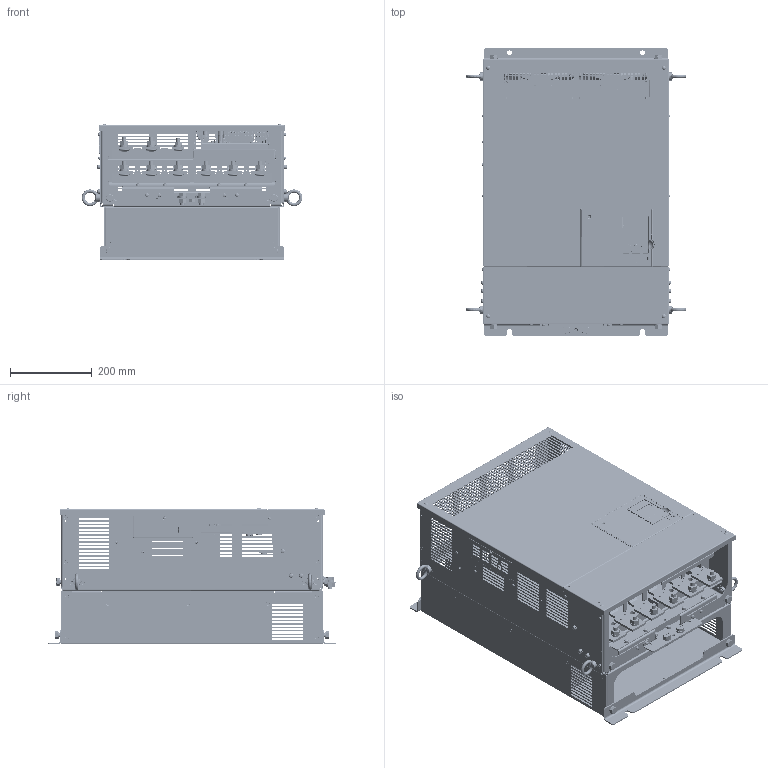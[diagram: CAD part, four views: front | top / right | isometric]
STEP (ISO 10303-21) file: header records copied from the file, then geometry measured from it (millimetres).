
FILE_DESCRIPTION((''),'2;1');
FILE_NAME('A1000_FRAME_L_01','2021-04-15T',('jam'),('YASKAWA ELECTRIC CORCORATION'),'PRO/ENGINEER BY PARAMETRIC TECHNOLOGY CORPORATION, 2017170','PRO/ENGINEER BY PARAMETRIC TECHNOLOGY CORPORATION, 2017170','');
FILE_SCHEMA(('AUTOMOTIVE_DESIGN { 1 0 10303 214 1 1 1 1 }'));
Products named in the file (1): A1000_FRAME_L_01
Bounding box: 539.2 x 705 x 333.24 mm (x, y, z)
Surface area: 4507473.7 mm2 (no closed solid volume)
Topology: 0 solids, 911 shells, 10561 faces, 38925 edges, 28357 vertices
Faces by surface type: plane 5371, cylinder 2902, cone 833, bspline 649, torus 550, sphere 252, extrusion 4
Entity records: 511592 total; most frequent: CARTESIAN_POINT 195503, ORIENTED_EDGE 60207, DIRECTION 60172, EDGE_CURVE 38653, VERTEX_POINT 28355, VECTOR 22688, LINE 22684, AXIS2_PLACEMENT_3D 18742
